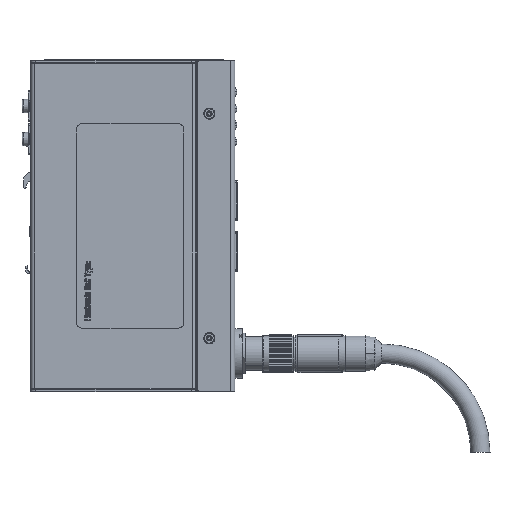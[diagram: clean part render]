
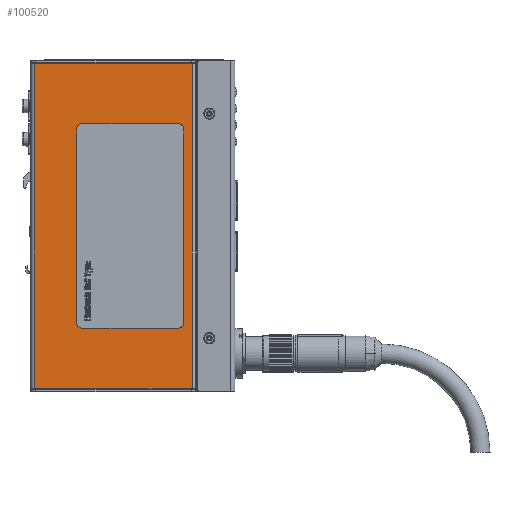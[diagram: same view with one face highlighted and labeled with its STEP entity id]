
A CAD part, front view. The second image highlights one B-rep face of the part: STEP entity #100520.
In plain terms, the highlighted planar face has unit normal (0, -1, 0).
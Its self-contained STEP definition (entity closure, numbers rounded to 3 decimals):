
#13861=DIRECTION('',(0.,0.,1.));
#13862=VECTOR('',#13861,127.2);
#13863=CARTESIAN_POINT('',(-48.211,0.,136.4));
#13864=LINE('',#13863,#13862);
#13865=DIRECTION('',(-1.,0.,0.));
#13866=VECTOR('',#13865,61.789);
#13867=CARTESIAN_POINT('',(-48.211,0.,136.4));
#13868=LINE('',#13867,#13866);
#13869=DIRECTION('',(1.,0.,0.));
#13870=VECTOR('',#13869,61.789);
#13871=CARTESIAN_POINT('',(-110.,0.,263.6));
#13872=LINE('',#13871,#13870);
#13873=DIRECTION('',(0.,0.,1.));
#13874=VECTOR('',#13873,76.);
#13875=CARTESIAN_POINT('',(-51.5,0.,162.));
#13876=LINE('',#13875,#13874);
#13877=CARTESIAN_POINT('',(-53.5,0.,238.));
#13878=DIRECTION('',(0.,1.,0.));
#13879=DIRECTION('',(0.,0.,1.));
#13880=AXIS2_PLACEMENT_3D('',#13877,#13878,#13879);
#13882=DIRECTION('',(-1.,0.,0.));
#13883=VECTOR('',#13882,38.);
#13884=CARTESIAN_POINT('',(-53.5,0.,240.));
#13885=LINE('',#13884,#13883);
#13886=CARTESIAN_POINT('',(-91.5,0.,238.));
#13887=DIRECTION('',(0.,1.,0.));
#13888=DIRECTION('',(-1.,0.,0.));
#13889=AXIS2_PLACEMENT_3D('',#13886,#13887,#13888);
#13891=DIRECTION('',(0.,0.,-1.));
#13892=VECTOR('',#13891,76.);
#13893=CARTESIAN_POINT('',(-93.5,0.,238.));
#13894=LINE('',#13893,#13892);
#13895=CARTESIAN_POINT('',(-91.5,0.,162.));
#13896=DIRECTION('',(0.,1.,0.));
#13897=DIRECTION('',(0.,0.,-1.));
#13898=AXIS2_PLACEMENT_3D('',#13895,#13896,#13897);
#13900=DIRECTION('',(1.,0.,0.));
#13901=VECTOR('',#13900,38.);
#13902=CARTESIAN_POINT('',(-91.5,0.,160.));
#13903=LINE('',#13902,#13901);
#13904=CARTESIAN_POINT('',(-53.5,0.,162.));
#13905=DIRECTION('',(0.,1.,0.));
#13906=DIRECTION('',(1.,0.,0.));
#13907=AXIS2_PLACEMENT_3D('',#13904,#13905,#13906);
#15056=DIRECTION('',(0.,0.,1.));
#15057=VECTOR('',#15056,127.2);
#15058=CARTESIAN_POINT('',(-110.,0.,136.4));
#15059=LINE('',#15058,#15057);
#67223=CARTESIAN_POINT('',(-110.,0.,263.6));
#67224=VERTEX_POINT('',#67223);
#67225=CARTESIAN_POINT('',(-110.,0.,136.4));
#67226=VERTEX_POINT('',#67225);
#67347=CARTESIAN_POINT('',(-48.211,0.,263.6));
#67349=VERTEX_POINT('',#67347);
#67357=CARTESIAN_POINT('',(-48.211,0.,136.4));
#67358=VERTEX_POINT('',#67357);
#82109=CARTESIAN_POINT('',(-51.5,0.,162.));
#82110=CARTESIAN_POINT('',(-51.5,0.,238.));
#82111=VERTEX_POINT('',#82109);
#82112=VERTEX_POINT('',#82110);
#82113=CARTESIAN_POINT('',(-53.5,0.,240.));
#82114=CARTESIAN_POINT('',(-91.5,0.,240.));
#82115=VERTEX_POINT('',#82113);
#82116=VERTEX_POINT('',#82114);
#82117=CARTESIAN_POINT('',(-93.5,0.,238.));
#82118=CARTESIAN_POINT('',(-93.5,0.,162.));
#82119=VERTEX_POINT('',#82117);
#82120=VERTEX_POINT('',#82118);
#82121=CARTESIAN_POINT('',(-91.5,0.,160.));
#82122=CARTESIAN_POINT('',(-53.5,0.,160.));
#82123=VERTEX_POINT('',#82121);
#82124=VERTEX_POINT('',#82122);
#100489=CARTESIAN_POINT('',(-111.5,0.,200.));
#100490=DIRECTION('',(0.,1.,0.));
#100491=DIRECTION('',(0.,0.,-1.));
#100492=AXIS2_PLACEMENT_3D('',#100489,#100490,#100491);
#100493=PLANE('',#100492);
#100494=ORIENTED_EDGE('',*,*,#100463,.F.);
#100496=ORIENTED_EDGE('',*,*,#100495,.T.);
#100498=ORIENTED_EDGE('',*,*,#100497,.T.);
#100499=ORIENTED_EDGE('',*,*,#100474,.T.);
#100500=EDGE_LOOP('',(#100494,#100496,#100498,#100499));
#100501=FACE_OUTER_BOUND('',#100500,.F.);
#100503=ORIENTED_EDGE('',*,*,#100502,.T.);
#100505=ORIENTED_EDGE('',*,*,#100504,.F.);
#100507=ORIENTED_EDGE('',*,*,#100506,.T.);
#100509=ORIENTED_EDGE('',*,*,#100508,.F.);
#100511=ORIENTED_EDGE('',*,*,#100510,.T.);
#100513=ORIENTED_EDGE('',*,*,#100512,.F.);
#100515=ORIENTED_EDGE('',*,*,#100514,.T.);
#100517=ORIENTED_EDGE('',*,*,#100516,.F.);
#100518=EDGE_LOOP('',(#100503,#100505,#100507,#100509,#100511,#100513,#100515,
#100517));
#100519=FACE_BOUND('',#100518,.F.);
#100520=ADVANCED_FACE('',(#100501,#100519),#100493,.F.);
#13881=CIRCLE('',#13880,2.);
#13890=CIRCLE('',#13889,2.);
#13899=CIRCLE('',#13898,2.);
#13908=CIRCLE('',#13907,2.);
#100463=EDGE_CURVE('',#67358,#67349,#13864,.T.);
#100474=EDGE_CURVE('',#67224,#67349,#13872,.T.);
#100495=EDGE_CURVE('',#67358,#67226,#13868,.T.);
#100497=EDGE_CURVE('',#67226,#67224,#15059,.T.);
#100502=EDGE_CURVE('',#82111,#82112,#13876,.T.);
#100504=EDGE_CURVE('',#82115,#82112,#13881,.T.);
#100506=EDGE_CURVE('',#82115,#82116,#13885,.T.);
#100508=EDGE_CURVE('',#82119,#82116,#13890,.T.);
#100510=EDGE_CURVE('',#82119,#82120,#13894,.T.);
#100512=EDGE_CURVE('',#82123,#82120,#13899,.T.);
#100514=EDGE_CURVE('',#82123,#82124,#13903,.T.);
#100516=EDGE_CURVE('',#82111,#82124,#13908,.T.);
